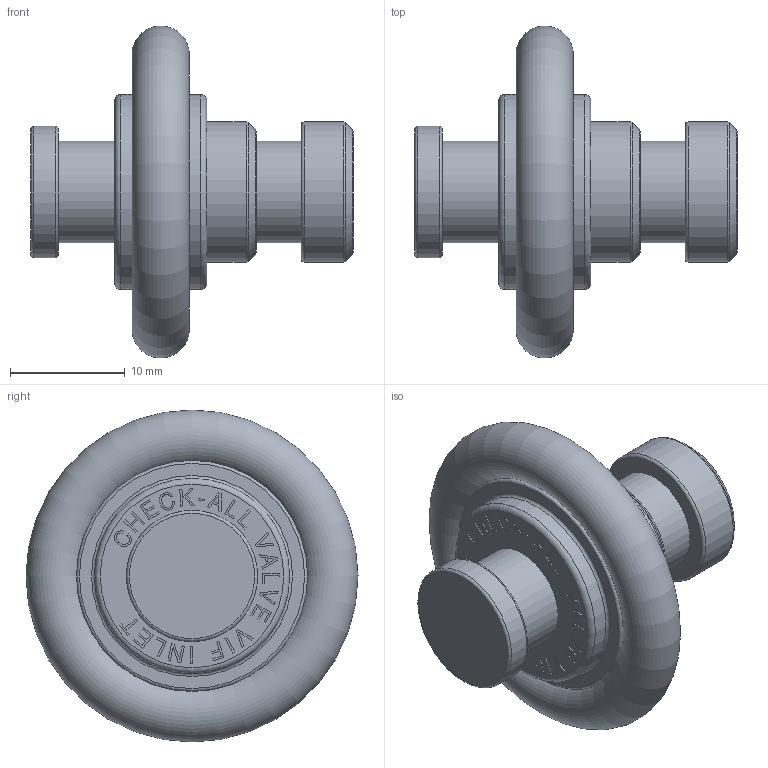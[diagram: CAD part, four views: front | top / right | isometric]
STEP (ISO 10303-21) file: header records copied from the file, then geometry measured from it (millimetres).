
FILE_DESCRIPTION(/* description */ ('Unknown'),/* implementation_level */ '2;1');
FILE_NAME(/* name */ 'VIF',/* time_stamp */ '2018-08-09T11:24:17-05:00',/* author */ ('Unknown'),/* organization */ ('Unknown'),/* preprocessor_version */ 'ST-DEVELOPER v16.7',/* originating_system */ 'DEX',/* authorisation */ $);
FILE_SCHEMA (('AUTOMOTIVE_DESIGN {1 0 10303 214 3 1 1}'));
Length unit declared in the file: millimetre
Products named in the file (1): VIF
Bounding box: 28.05 x 28.9 x 28.9 mm (x, y, z)
Volume: 5339.6 mm3; surface area: 2665 mm2
Topology: 1 solids, 1 shells, 231 faces, 582 edges, 384 vertices
Faces by surface type: plane 204, torus 14, cylinder 7, bspline 4, cone 2
Full cylindrical faces by diameter (mm): 8.839 x2, 11.43 x1, 12.192 x2, 16.993 x2
Entity records: 8490 total; most frequent: CARTESIAN_POINT 1395, ORIENTED_EDGE 1112, DIRECTION 1035, EDGE_CURVE 556, LINE 517, VECTOR 517, VERTEX_POINT 381, EDGE_LOOP 285
